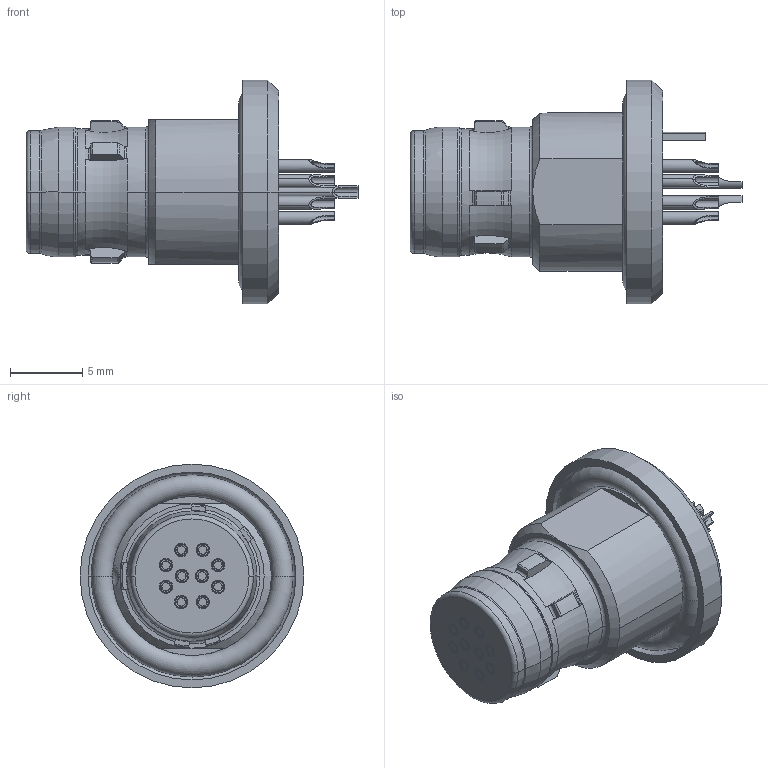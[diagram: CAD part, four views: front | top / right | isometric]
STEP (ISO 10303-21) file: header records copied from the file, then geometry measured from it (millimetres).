
FILE_DESCRIPTION((''),'2;1');
FILE_NAME('00052543-A','2020-10-27T07:43:13',('EUnterhaslberger'),(''),'CREO PARAMETRIC BY PTC INC, 2018300','CREO PARAMETRIC BY PTC INC, 2018300','');
FILE_SCHEMA(('AP242_MANAGED_MODEL_BASED_3D_ENGINEERING_MIM_LF { 1 0 10303 442 1 1 4 }'));
Length unit declared in the file: millimetre
Products named in the file (1): 00052543-A
Bounding box: 23 x 15.5 x 15.5 mm (x, y, z)
Volume: 1573.5 mm3; surface area: 1508 mm2
Topology: 2 solids, 9 shells, 349 faces, 917 edges, 597 vertices
Faces by surface type: cylinder 121, plane 99, torus 63, cone 61, sphere 3, bspline 2
Entity records: 14125 total; most frequent: CARTESIAN_POINT 3007, DIRECTION 1908, ORIENTED_EDGE 1788, EDGE_CURVE 894, AXIS2_PLACEMENT_3D 805, VERTEX_POINT 597, CIRCLE 458, EDGE_LOOP 399
